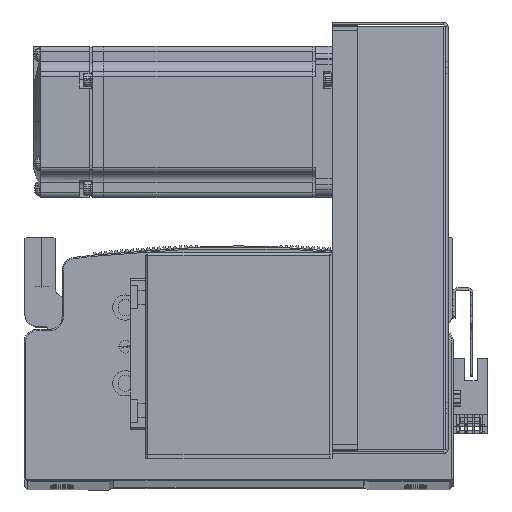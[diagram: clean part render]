
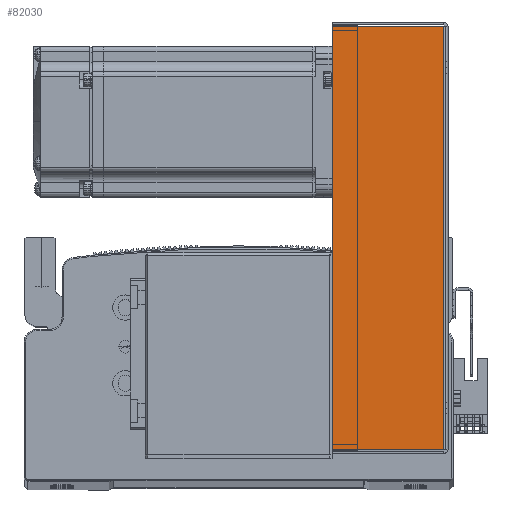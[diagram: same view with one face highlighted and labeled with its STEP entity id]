
A CAD part, top view. The second image highlights one B-rep face of the part: STEP entity #82030.
In plain terms, the highlighted planar face has unit normal (0, 0, 1).
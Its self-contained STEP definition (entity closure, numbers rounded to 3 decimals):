
#8973 = CARTESIAN_POINT ( 'NONE',  ( -83.793, 0., 40.5 ) ) ;
#8975 = DIRECTION ( 'NONE',  ( 0., 1., 0. ) ) ;
#8995 = DIRECTION ( 'NONE',  ( 0., 1., 0. ) ) ;
#9020 = CARTESIAN_POINT ( 'NONE',  ( 83.793, 0., 40.5 ) ) ;
#9317 = DIRECTION ( 'NONE',  ( -1., 0., 0. ) ) ;
#9352 = CARTESIAN_POINT ( 'NONE',  ( -84.5, 45., 40.5 ) ) ;
#9402 = CARTESIAN_POINT ( 'NONE',  ( 0., 0.737, 40.5 ) ) ;
#9421 = DIRECTION ( 'NONE',  ( -1., 0., 0. ) ) ;
#10781 = CARTESIAN_POINT ( 'NONE',  ( 83.793, 0.737, 40.5 ) ) ;
#10788 = CARTESIAN_POINT ( 'NONE',  ( -83.793, 45., 40.5 ) ) ;
#10871 = CARTESIAN_POINT ( 'NONE',  ( -83.793, 0.737, 40.5 ) ) ;
#10882 = CARTESIAN_POINT ( 'NONE',  ( 83.793, 45., 40.5 ) ) ;
#26893 = VECTOR ( 'NONE', #8995, 1000. ) ;
#26909 = LINE ( 'NONE', #9020, #26911 ) ;
#26911 = VECTOR ( 'NONE', #8975, 1000. ) ;
#26975 = LINE ( 'NONE', #8973, #26893 ) ;
#26992 = VECTOR ( 'NONE', #9317, 1000. ) ;
#27001 = LINE ( 'NONE', #9352, #26992 ) ;
#27055 = LINE ( 'NONE', #9402, #27094 ) ;
#27094 = VECTOR ( 'NONE', #9421, 1000. ) ;
#47354 = EDGE_LOOP ( 'NONE', ( #60529, #60528, #67106, #67120 ) ) ;
#52633 = EDGE_CURVE ( 'NONE', #66440, #66394, #26975, .T. ) ;
#52656 = EDGE_CURVE ( 'NONE', #66385, #66490, #26909, .T. ) ;
#52707 = EDGE_CURVE ( 'NONE', #66490, #66394, #27001, .T. ) ;
#52722 = EDGE_CURVE ( 'NONE', #66385, #66440, #27055, .T. ) ;
#60528 = ORIENTED_EDGE ( 'NONE', *, *, #52656, .T. ) ;
#60529 = ORIENTED_EDGE ( 'NONE', *, *, #52722, .F. ) ;
#62423 = AXIS2_PLACEMENT_3D ( 'NONE', #64854, #64836, #64837 ) ;
#64836 = DIRECTION ( 'NONE',  ( 0., 0., -1. ) ) ;
#64837 = DIRECTION ( 'NONE',  ( -1., 0., 0. ) ) ;
#64849 = PLANE ( 'NONE',  #62423 ) ;
#64854 = CARTESIAN_POINT ( 'NONE',  ( 0., 0., 40.5 ) ) ;
#66385 = VERTEX_POINT ( 'NONE', #10781 ) ;
#66394 = VERTEX_POINT ( 'NONE', #10788 ) ;
#66440 = VERTEX_POINT ( 'NONE', #10871 ) ;
#66490 = VERTEX_POINT ( 'NONE', #10882 ) ;
#67106 = ORIENTED_EDGE ( 'NONE', *, *, #52707, .T. ) ;
#67120 = ORIENTED_EDGE ( 'NONE', *, *, #52633, .F. ) ;
#82030 = ADVANCED_FACE ( 'NONE', ( #86933 ), #64849, .F. ) ;
#86933 = FACE_OUTER_BOUND ( 'NONE', #47354, .T. ) ;
